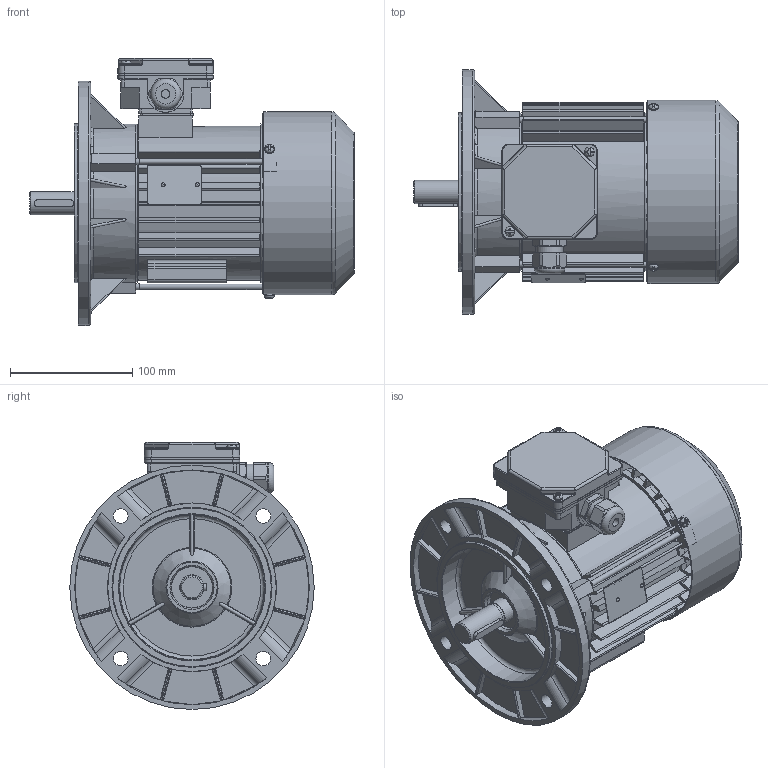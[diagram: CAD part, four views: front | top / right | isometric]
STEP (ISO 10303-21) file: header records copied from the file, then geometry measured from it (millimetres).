
FILE_DESCRIPTION(/* description */ ('Unknown'),/* implementation_level */ '2;1');
FILE_NAME(/* name */ 'SKh80-2A',/* time_stamp */ '2019-02-13T11:29:40+01:00',/* author */ ('Klaudiusz Szlosek'),/* organization */ ('BESEL S.A.'),/* preprocessor_version */ 'ST-DEVELOPER v16.7',/* originating_system */ 'DEX',/* authorisation */ $);
FILE_SCHEMA (('AUTOMOTIVE_DESIGN {1 0 10303 214 3 1 1}'));
Products named in the file (1): Czêœæ1
Bounding box: 265.77 x 200 x 218.5 mm (x, y, z)
Volume: 905139.2 mm3; surface area: 504534.8 mm2
Topology: 2 solids, 2 shells, 2274 faces, 6453 edges, 4182 vertices
Faces by surface type: plane 1150, cylinder 767, bspline 132, torus 118, cone 89, sphere 18
Full cylindrical faces by diameter (mm): 2 x2, 2.4 x2, 3 x1, 3.7 x8, 4 x3, 4.5 x1, 4.6 x3, 4.8 x2, 5 x5, 5.5 x3, 7 x1, 8 x9, 12 x4, 18.596 x1, 18.996 x1, 19.296 x1, 19.496 x2, 19.896 x1, 20.296 x2, 20.396 x2, 20.4 x2, 22.3 x1, 25 x1, 25.495 x1, 25.645 x1, 25.995 x3, 26.045 x1, 28.796 x4, 34 x2, 38.198 x4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
Entity records: 92253 total; most frequent: CARTESIAN_POINT 19334, ORIENTED_EDGE 12198, DIRECTION 11391, EDGE_CURVE 6099, AXIS2_PLACEMENT_3D 4103, VERTEX_POINT 4076, LINE 3185, VECTOR 3185
